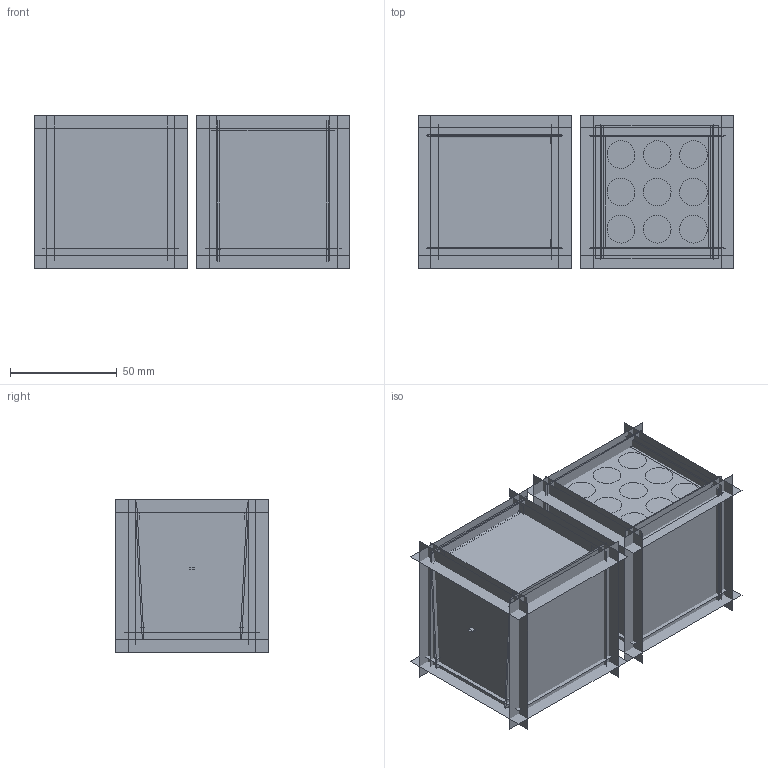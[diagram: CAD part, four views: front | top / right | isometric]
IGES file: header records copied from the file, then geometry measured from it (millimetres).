
Global section: file name: C:\Users\utente\Desktop\3d sito\MAIORCA\MAIORCA.igs; native system: Rhinoceros ( Mar  9 2011 ); preprocessor: Trout Lake IGES 012 Mar  9 2011; date: 170531.084245; units: millimetre
Bounding box: 148.12 x 72 x 72 mm (x, y, z)
Surface area: 168033.6 mm2 (no closed solid volume)
Topology: 0 solids, 0 shells, 96 faces, 384 edges, 384 vertices
Faces by surface type: bspline 96
